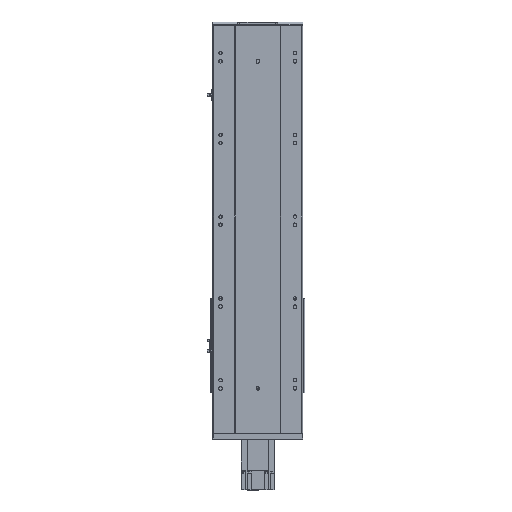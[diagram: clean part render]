
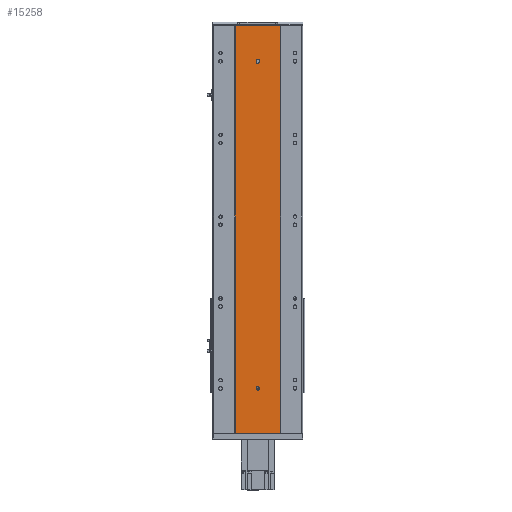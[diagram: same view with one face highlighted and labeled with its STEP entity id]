
A CAD part, top view. The second image highlights one B-rep face of the part: STEP entity #15258.
In plain terms, the highlighted planar face has unit normal (0, 0, 1).
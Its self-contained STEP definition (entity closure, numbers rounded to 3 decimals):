
#305 = ORIENTED_EDGE ( 'NONE', *, *, #6293, .F. ) ;
#366 = CARTESIAN_POINT ( 'NONE',  ( 55., 0., 58. ) ) ;
#744 = CIRCLE ( 'NONE', #17132, 4. ) ;
#1502 = VERTEX_POINT ( 'NONE', #18018 ) ;
#1579 = EDGE_CURVE ( 'NONE', #25196, #1502, #7554, .T. ) ;
#2379 = DIRECTION ( 'NONE',  ( 1., 0., 0. ) ) ;
#2454 = LINE ( 'NONE', #15298, #18224 ) ;
#2485 = ORIENTED_EDGE ( 'NONE', *, *, #3124, .T. ) ;
#2554 = DIRECTION ( 'NONE',  ( 0., -1., 0. ) ) ;
#2616 = VECTOR ( 'NONE', #9041, 1000. ) ;
#2712 = DIRECTION ( 'NONE',  ( 0., 0., -1. ) ) ;
#2792 = CARTESIAN_POINT ( 'NONE',  ( 4., 110., 58. ) ) ;
#3124 = EDGE_CURVE ( 'NONE', #14984, #10128, #2454, .T. ) ;
#3149 = CARTESIAN_POINT ( 'NONE',  ( 4., 911., 58. ) ) ;
#3614 = AXIS2_PLACEMENT_3D ( 'NONE', #19417, #15211, #2379 ) ;
#3640 = EDGE_CURVE ( 'NONE', #26165, #22554, #744, .T. ) ;
#3701 = CIRCLE ( 'NONE', #22958, 4. ) ;
#4293 = DIRECTION ( 'NONE',  ( 0., 0., 1. ) ) ;
#4940 = DIRECTION ( 'NONE',  ( 1., 0., 0. ) ) ;
#5132 = CARTESIAN_POINT ( 'NONE',  ( -55., 997., 58. ) ) ;
#5659 = CARTESIAN_POINT ( 'NONE',  ( 0., 110., 58. ) ) ;
#5929 = DIRECTION ( 'NONE',  ( 0., 0., 1. ) ) ;
#6293 = EDGE_CURVE ( 'NONE', #1502, #13431, #13337, .T. ) ;
#6492 = CARTESIAN_POINT ( 'NONE',  ( -4., 909., 58. ) ) ;
#6795 = CIRCLE ( 'NONE', #3614, 4. ) ;
#7227 = VERTEX_POINT ( 'NONE', #7858 ) ;
#7317 = EDGE_CURVE ( 'NONE', #12960, #19084, #12657, .T. ) ;
#7554 = CIRCLE ( 'NONE', #15428, 4. ) ;
#7636 = CARTESIAN_POINT ( 'NONE',  ( -55., 0., 58. ) ) ;
#7858 = CARTESIAN_POINT ( 'NONE',  ( -4., 911., 58. ) ) ;
#8390 = ORIENTED_EDGE ( 'NONE', *, *, #1579, .F. ) ;
#8572 = DIRECTION ( 'NONE',  ( 1., 0., 0. ) ) ;
#9011 = FACE_BOUND ( 'NONE', #15194, .T. ) ;
#9041 = DIRECTION ( 'NONE',  ( 0., 1., 0. ) ) ;
#9332 = PLANE ( 'NONE',  #15175 ) ;
#10128 = VERTEX_POINT ( 'NONE', #16223 ) ;
#11215 = CARTESIAN_POINT ( 'NONE',  ( -4., 110., 58. ) ) ;
#11614 = DIRECTION ( 'NONE',  ( 1., 0., 0. ) ) ;
#12569 = DIRECTION ( 'NONE',  ( 0., -1., 0. ) ) ;
#12657 = LINE ( 'NONE', #12660, #13989 ) ;
#12660 = CARTESIAN_POINT ( 'NONE',  ( 55., 997., 58. ) ) ;
#12953 = VECTOR ( 'NONE', #4940, 1000. ) ;
#12960 = VERTEX_POINT ( 'NONE', #27442 ) ;
#13337 = LINE ( 'NONE', #15349, #2616 ) ;
#13431 = VERTEX_POINT ( 'NONE', #3149 ) ;
#13567 = CARTESIAN_POINT ( 'NONE',  ( -4., 909., 58. ) ) ;
#13571 = DIRECTION ( 'NONE',  ( -1., 0., 0. ) ) ;
#13815 = CARTESIAN_POINT ( 'NONE',  ( -55., 997., 58. ) ) ;
#13968 = LINE ( 'NONE', #21732, #12953 ) ;
#13989 = VECTOR ( 'NONE', #12569, 1000. ) ;
#14721 = ORIENTED_EDGE ( 'NONE', *, *, #3640, .F. ) ;
#14984 = VERTEX_POINT ( 'NONE', #13815 ) ;
#15137 = VECTOR ( 'NONE', #15552, 1000. ) ;
#15175 = AXIS2_PLACEMENT_3D ( 'NONE', #5132, #2712, #13571 ) ;
#15194 = EDGE_LOOP ( 'NONE', ( #305, #8390, #18734, #23516 ) ) ;
#15211 = DIRECTION ( 'NONE',  ( 0., 0., 1. ) ) ;
#15258 = ADVANCED_FACE ( 'NONE', ( #23465, #9011, #19759 ), #9332, .F. ) ;
#15298 = CARTESIAN_POINT ( 'NONE',  ( -55., 997., 58. ) ) ;
#15349 = CARTESIAN_POINT ( 'NONE',  ( 4., 909., 58. ) ) ;
#15428 = AXIS2_PLACEMENT_3D ( 'NONE', #24481, #22406, #11614 ) ;
#15552 = DIRECTION ( 'NONE',  ( 0., -1., 0. ) ) ;
#16021 = DIRECTION ( 'NONE',  ( 1., 0., 0. ) ) ;
#16223 = CARTESIAN_POINT ( 'NONE',  ( -55., 0., 58. ) ) ;
#17132 = AXIS2_PLACEMENT_3D ( 'NONE', #17419, #4293, #8572 ) ;
#17419 = CARTESIAN_POINT ( 'NONE',  ( 0., 110., 58. ) ) ;
#18018 = CARTESIAN_POINT ( 'NONE',  ( 4., 909., 58. ) ) ;
#18224 = VECTOR ( 'NONE', #2554, 1000. ) ;
#18734 = ORIENTED_EDGE ( 'NONE', *, *, #25425, .F. ) ;
#18976 = DIRECTION ( 'NONE',  ( 1., 0., 0. ) ) ;
#19084 = VERTEX_POINT ( 'NONE', #366 ) ;
#19417 = CARTESIAN_POINT ( 'NONE',  ( 0., 911., 58. ) ) ;
#19759 = FACE_OUTER_BOUND ( 'NONE', #20705, .T. ) ;
#20265 = EDGE_CURVE ( 'NONE', #10128, #19084, #27358, .T. ) ;
#20468 = ORIENTED_EDGE ( 'NONE', *, *, #7317, .F. ) ;
#20663 = ORIENTED_EDGE ( 'NONE', *, *, #26144, .F. ) ;
#20705 = EDGE_LOOP ( 'NONE', ( #27230, #20468, #22222, #2485 ) ) ;
#21181 = LINE ( 'NONE', #13567, #15137 ) ;
#21732 = CARTESIAN_POINT ( 'NONE',  ( -55., 997., 58. ) ) ;
#22222 = ORIENTED_EDGE ( 'NONE', *, *, #22582, .F. ) ;
#22406 = DIRECTION ( 'NONE',  ( 0., 0., 1. ) ) ;
#22554 = VERTEX_POINT ( 'NONE', #11215 ) ;
#22582 = EDGE_CURVE ( 'NONE', #14984, #12960, #13968, .T. ) ;
#22958 = AXIS2_PLACEMENT_3D ( 'NONE', #5659, #5929, #18976 ) ;
#23395 = EDGE_LOOP ( 'NONE', ( #14721, #20663 ) ) ;
#23465 = FACE_BOUND ( 'NONE', #23395, .T. ) ;
#23516 = ORIENTED_EDGE ( 'NONE', *, *, #24480, .F. ) ;
#24480 = EDGE_CURVE ( 'NONE', #13431, #7227, #6795, .T. ) ;
#24481 = CARTESIAN_POINT ( 'NONE',  ( 0., 909., 58. ) ) ;
#25196 = VERTEX_POINT ( 'NONE', #6492 ) ;
#25311 = VECTOR ( 'NONE', #16021, 1000. ) ;
#25425 = EDGE_CURVE ( 'NONE', #7227, #25196, #21181, .T. ) ;
#26144 = EDGE_CURVE ( 'NONE', #22554, #26165, #3701, .T. ) ;
#26165 = VERTEX_POINT ( 'NONE', #2792 ) ;
#27230 = ORIENTED_EDGE ( 'NONE', *, *, #20265, .T. ) ;
#27358 = LINE ( 'NONE', #7636, #25311 ) ;
#27442 = CARTESIAN_POINT ( 'NONE',  ( 55., 997., 58. ) ) ;
